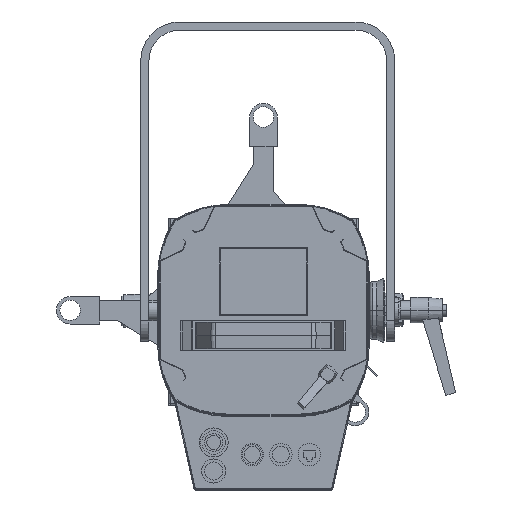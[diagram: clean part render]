
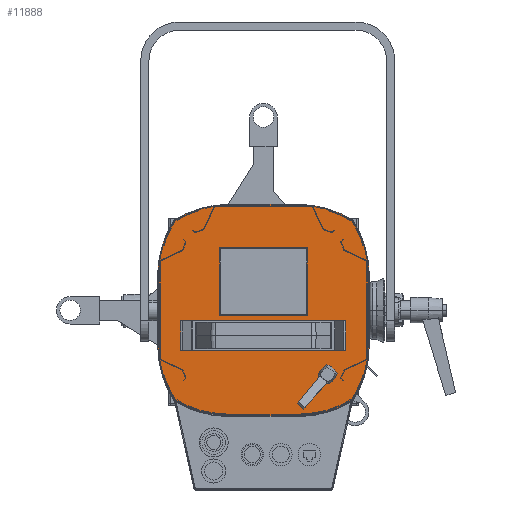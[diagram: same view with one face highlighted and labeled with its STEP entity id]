
A CAD part, top view. The second image highlights one B-rep face of the part: STEP entity #11888.
In plain terms, the highlighted planar face has unit normal (0, 0, 1).
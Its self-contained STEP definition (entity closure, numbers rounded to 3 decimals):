
#236 = DIRECTION ( 'NONE',  ( 0., 0., -1. ) ) ;
#322 = VERTEX_POINT ( 'NONE', #6864 ) ;
#434 = DIRECTION ( 'NONE',  ( -1., 0., 0. ) ) ;
#658 = VERTEX_POINT ( 'NONE', #22728 ) ;
#660 = VECTOR ( 'NONE', #22892, 1000. ) ;
#819 = CARTESIAN_POINT ( 'NONE',  ( -88.019, -88.019, 227.1 ) ) ;
#1164 = EDGE_CURVE ( 'NONE', #4874, #10409, #28338, .T. ) ;
#1409 = CARTESIAN_POINT ( 'NONE',  ( 0., -33., 227.1 ) ) ;
#1524 = EDGE_CURVE ( 'NONE', #6129, #15919, #21949, .T. ) ;
#1573 = ORIENTED_EDGE ( 'NONE', *, *, #14630, .F. ) ;
#2221 = CARTESIAN_POINT ( 'NONE',  ( 33., 103.8, 227.1 ) ) ;
#2476 = ORIENTED_EDGE ( 'NONE', *, *, #3714, .F. ) ;
#2883 = CARTESIAN_POINT ( 'NONE',  ( 88.019, 88.019, 227.1 ) ) ;
#3185 = ORIENTED_EDGE ( 'NONE', *, *, #27051, .F. ) ;
#3396 = ORIENTED_EDGE ( 'NONE', *, *, #23961, .F. ) ;
#3548 = CARTESIAN_POINT ( 'NONE',  ( 33., 0., 227.1 ) ) ;
#3714 = EDGE_CURVE ( 'NONE', #15919, #9392, #26017, .T. ) ;
#3719 = CARTESIAN_POINT ( 'NONE',  ( 103.8, 33., 227.1 ) ) ;
#4380 = ORIENTED_EDGE ( 'NONE', *, *, #20373, .F. ) ;
#4874 = VERTEX_POINT ( 'NONE', #20347 ) ;
#5305 = CARTESIAN_POINT ( 'NONE',  ( -103.8, -33., 227.1 ) ) ;
#5493 = ORIENTED_EDGE ( 'NONE', *, *, #1524, .F. ) ;
#5687 = CIRCLE ( 'NONE', #19951, 103.8 ) ;
#6031 = DIRECTION ( 'NONE',  ( -1., 0., 0. ) ) ;
#6129 = VERTEX_POINT ( 'NONE', #2883 ) ;
#6240 = CARTESIAN_POINT ( 'NONE',  ( -103.8, -33., 227.1 ) ) ;
#6864 = CARTESIAN_POINT ( 'NONE',  ( -42.5, 60., 227.1 ) ) ;
#7655 = CIRCLE ( 'NONE', #11116, 103.8 ) ;
#7696 = CARTESIAN_POINT ( 'NONE',  ( 33., 0., 227.1 ) ) ;
#7820 = CIRCLE ( 'NONE', #12262, 103.8 ) ;
#7972 = ORIENTED_EDGE ( 'NONE', *, *, #10385, .F. ) ;
#8116 = CARTESIAN_POINT ( 'NONE',  ( -42.5, 14., 227.1 ) ) ;
#8153 = CARTESIAN_POINT ( 'NONE',  ( -33., 0., 227.1 ) ) ;
#8167 = VECTOR ( 'NONE', #17078, 1000. ) ;
#8783 = ORIENTED_EDGE ( 'NONE', *, *, #12032, .F. ) ;
#8865 = DIRECTION ( 'NONE',  ( -1., 0., 0. ) ) ;
#8962 = VERTEX_POINT ( 'NONE', #22954 ) ;
#8986 = CARTESIAN_POINT ( 'NONE',  ( 33., -103.8, 227.1 ) ) ;
#9201 = EDGE_LOOP ( 'NONE', ( #16036, #2476, #5493, #29682, #1573, #10633, #3185, #3396, #24209, #8783, #24639, #21815 ) ) ;
#9222 = VECTOR ( 'NONE', #16783, 1000. ) ;
#9355 = VERTEX_POINT ( 'NONE', #25981 ) ;
#9392 = VERTEX_POINT ( 'NONE', #27846 ) ;
#9468 = VERTEX_POINT ( 'NONE', #19192 ) ;
#9696 = VECTOR ( 'NONE', #21060, 1000. ) ;
#9804 = FACE_BOUND ( 'NONE', #25011, .T. ) ;
#9827 = EDGE_CURVE ( 'NONE', #22946, #16976, #11757, .T. ) ;
#9871 = VERTEX_POINT ( 'NONE', #21322 ) ;
#9947 = DIRECTION ( 'NONE',  ( 0., 0., -1. ) ) ;
#10002 = DIRECTION ( 'NONE',  ( 0., 0., -1. ) ) ;
#10131 = EDGE_CURVE ( 'NONE', #9392, #8962, #19515, .T. ) ;
#10301 = VECTOR ( 'NONE', #20725, 1000. ) ;
#10385 = EDGE_CURVE ( 'NONE', #322, #4874, #21703, .T. ) ;
#10409 = VERTEX_POINT ( 'NONE', #21844 ) ;
#10499 = DIRECTION ( 'NONE',  ( 0., 0., -1. ) ) ;
#10633 = ORIENTED_EDGE ( 'NONE', *, *, #19396, .F. ) ;
#10880 = CARTESIAN_POINT ( 'NONE',  ( -33., 0., 227.1 ) ) ;
#11116 = AXIS2_PLACEMENT_3D ( 'NONE', #28959, #28805, #434 ) ;
#11757 = LINE ( 'NONE', #8986, #12584 ) ;
#11888 = ADVANCED_FACE ( 'NONE', ( #9804, #19221 ), #28771, .F. ) ;
#11944 = CARTESIAN_POINT ( 'NONE',  ( 0., 33., 227.1 ) ) ;
#12032 = EDGE_CURVE ( 'NONE', #16976, #29153, #27631, .T. ) ;
#12055 = CARTESIAN_POINT ( 'NONE',  ( 42.5, 60., 227.1 ) ) ;
#12262 = AXIS2_PLACEMENT_3D ( 'NONE', #7696, #10002, #17117 ) ;
#12563 = AXIS2_PLACEMENT_3D ( 'NONE', #3548, #12942, #22360 ) ;
#12584 = VECTOR ( 'NONE', #21025, 1000. ) ;
#12942 = DIRECTION ( 'NONE',  ( 0., 0., -1. ) ) ;
#13482 = VERTEX_POINT ( 'NONE', #5305 ) ;
#14088 = DIRECTION ( 'NONE',  ( 0., 1., 0. ) ) ;
#14630 = EDGE_CURVE ( 'NONE', #19664, #9468, #18750, .T. ) ;
#15919 = VERTEX_POINT ( 'NONE', #3719 ) ;
#16036 = ORIENTED_EDGE ( 'NONE', *, *, #10131, .F. ) ;
#16783 = DIRECTION ( 'NONE',  ( 0., -1., 0. ) ) ;
#16912 = CARTESIAN_POINT ( 'NONE',  ( 0., -33., 227.1 ) ) ;
#16976 = VERTEX_POINT ( 'NONE', #21471 ) ;
#17078 = DIRECTION ( 'NONE',  ( 0., -1., 0. ) ) ;
#17117 = DIRECTION ( 'NONE',  ( -1., 0., 0. ) ) ;
#17299 = DIRECTION ( 'NONE',  ( 0., 0., -1. ) ) ;
#17728 = DIRECTION ( 'NONE',  ( 1., 0., 0. ) ) ;
#18750 = LINE ( 'NONE', #2221, #9696 ) ;
#18853 = LINE ( 'NONE', #12055, #25526 ) ;
#18995 = ORIENTED_EDGE ( 'NONE', *, *, #21486, .F. ) ;
#19192 = CARTESIAN_POINT ( 'NONE',  ( 33., 103.8, 227.1 ) ) ;
#19221 = FACE_OUTER_BOUND ( 'NONE', #9201, .T. ) ;
#19396 = EDGE_CURVE ( 'NONE', #9871, #19664, #29427, .T. ) ;
#19515 = CIRCLE ( 'NONE', #22471, 103.8 ) ;
#19664 = VERTEX_POINT ( 'NONE', #23852 ) ;
#19951 = AXIS2_PLACEMENT_3D ( 'NONE', #28994, #17299, #26684 ) ;
#20347 = CARTESIAN_POINT ( 'NONE',  ( -42.5, -4., 227.1 ) ) ;
#20373 = EDGE_CURVE ( 'NONE', #10409, #658, #18853, .T. ) ;
#20474 = CIRCLE ( 'NONE', #12563, 103.8 ) ;
#20725 = DIRECTION ( 'NONE',  ( -1., 0., 0. ) ) ;
#20798 = CARTESIAN_POINT ( 'NONE',  ( 103.8, -33., 227.1 ) ) ;
#20925 = EDGE_CURVE ( 'NONE', #9468, #6129, #7820, .T. ) ;
#21025 = DIRECTION ( 'NONE',  ( -1., 0., 0. ) ) ;
#21060 = DIRECTION ( 'NONE',  ( 1., 0., 0. ) ) ;
#21322 = CARTESIAN_POINT ( 'NONE',  ( -88.019, 88.019, 227.1 ) ) ;
#21471 = CARTESIAN_POINT ( 'NONE',  ( -33., -103.8, 227.1 ) ) ;
#21486 = EDGE_CURVE ( 'NONE', #658, #322, #25198, .T. ) ;
#21703 = LINE ( 'NONE', #8116, #8167 ) ;
#21815 = ORIENTED_EDGE ( 'NONE', *, *, #26932, .F. ) ;
#21844 = CARTESIAN_POINT ( 'NONE',  ( 42.5, -4., 227.1 ) ) ;
#21949 = CIRCLE ( 'NONE', #28840, 103.8 ) ;
#22360 = DIRECTION ( 'NONE',  ( 1., 0., 0. ) ) ;
#22471 = AXIS2_PLACEMENT_3D ( 'NONE', #1409, #10499, #6031 ) ;
#22728 = CARTESIAN_POINT ( 'NONE',  ( 42.5, 60., 227.1 ) ) ;
#22741 = CARTESIAN_POINT ( 'NONE',  ( 2.5, 60., 227.1 ) ) ;
#22892 = DIRECTION ( 'NONE',  ( 0., 1., 0. ) ) ;
#22946 = VERTEX_POINT ( 'NONE', #23191 ) ;
#22954 = CARTESIAN_POINT ( 'NONE',  ( 88.019, -88.019, 227.1 ) ) ;
#23191 = CARTESIAN_POINT ( 'NONE',  ( 33., -103.8, 227.1 ) ) ;
#23852 = CARTESIAN_POINT ( 'NONE',  ( -33., 103.8, 227.1 ) ) ;
#23961 = EDGE_CURVE ( 'NONE', #13482, #9355, #25350, .T. ) ;
#24134 = ORIENTED_EDGE ( 'NONE', *, *, #1164, .F. ) ;
#24209 = ORIENTED_EDGE ( 'NONE', *, *, #26708, .F. ) ;
#24639 = ORIENTED_EDGE ( 'NONE', *, *, #9827, .F. ) ;
#24873 = VECTOR ( 'NONE', #27884, 1000. ) ;
#25011 = EDGE_LOOP ( 'NONE', ( #7972, #18995, #4380, #24134 ) ) ;
#25198 = LINE ( 'NONE', #22741, #10301 ) ;
#25350 = LINE ( 'NONE', #6240, #660 ) ;
#25526 = VECTOR ( 'NONE', #14088, 1000. ) ;
#25981 = CARTESIAN_POINT ( 'NONE',  ( -103.8, 33., 227.1 ) ) ;
#26017 = LINE ( 'NONE', #20798, #9222 ) ;
#26684 = DIRECTION ( 'NONE',  ( 1., 0., 0. ) ) ;
#26708 = EDGE_CURVE ( 'NONE', #29153, #13482, #5687, .T. ) ;
#26932 = EDGE_CURVE ( 'NONE', #8962, #22946, #20474, .T. ) ;
#27051 = EDGE_CURVE ( 'NONE', #9355, #9871, #7655, .T. ) ;
#27614 = AXIS2_PLACEMENT_3D ( 'NONE', #16912, #9947, #29230 ) ;
#27631 = CIRCLE ( 'NONE', #30090, 103.8 ) ;
#27846 = CARTESIAN_POINT ( 'NONE',  ( 103.8, -33., 227.1 ) ) ;
#27884 = DIRECTION ( 'NONE',  ( 1., 0., 0. ) ) ;
#28303 = DIRECTION ( 'NONE',  ( 1., 0., 0. ) ) ;
#28338 = LINE ( 'NONE', #30192, #24873 ) ;
#28771 = PLANE ( 'NONE',  #27614 ) ;
#28805 = DIRECTION ( 'NONE',  ( 0., 0., -1. ) ) ;
#28840 = AXIS2_PLACEMENT_3D ( 'NONE', #11944, #236, #28303 ) ;
#28916 = AXIS2_PLACEMENT_3D ( 'NONE', #8153, #29598, #17728 ) ;
#28959 = CARTESIAN_POINT ( 'NONE',  ( 0., 33., 227.1 ) ) ;
#28994 = CARTESIAN_POINT ( 'NONE',  ( 0., -33., 227.1 ) ) ;
#29153 = VERTEX_POINT ( 'NONE', #819 ) ;
#29230 = DIRECTION ( 'NONE',  ( -1., 0., 0. ) ) ;
#29427 = CIRCLE ( 'NONE', #28916, 103.8 ) ;
#29598 = DIRECTION ( 'NONE',  ( 0., 0., -1. ) ) ;
#29682 = ORIENTED_EDGE ( 'NONE', *, *, #20925, .F. ) ;
#29992 = DIRECTION ( 'NONE',  ( 0., 0., -1. ) ) ;
#30090 = AXIS2_PLACEMENT_3D ( 'NONE', #10880, #29992, #8865 ) ;
#30192 = CARTESIAN_POINT ( 'NONE',  ( -42.5, -4., 227.1 ) ) ;
